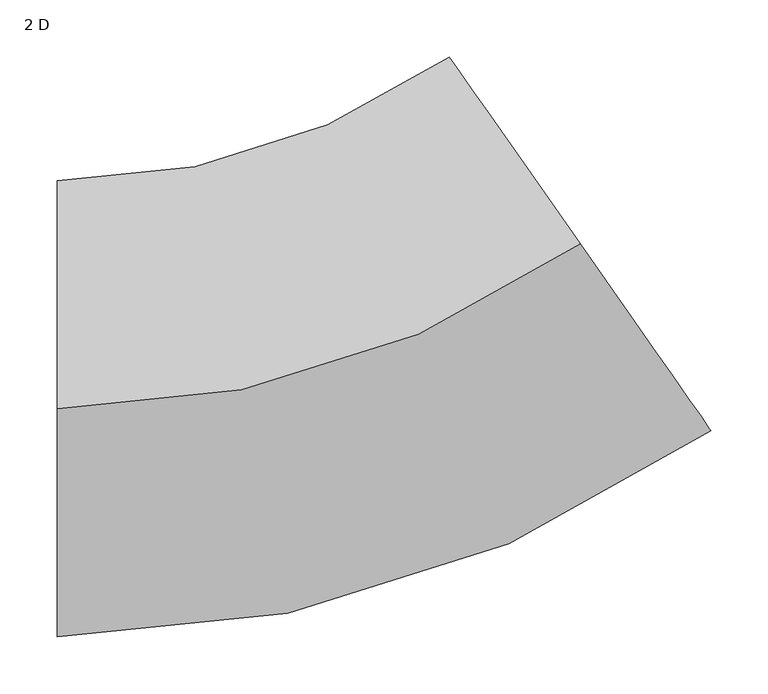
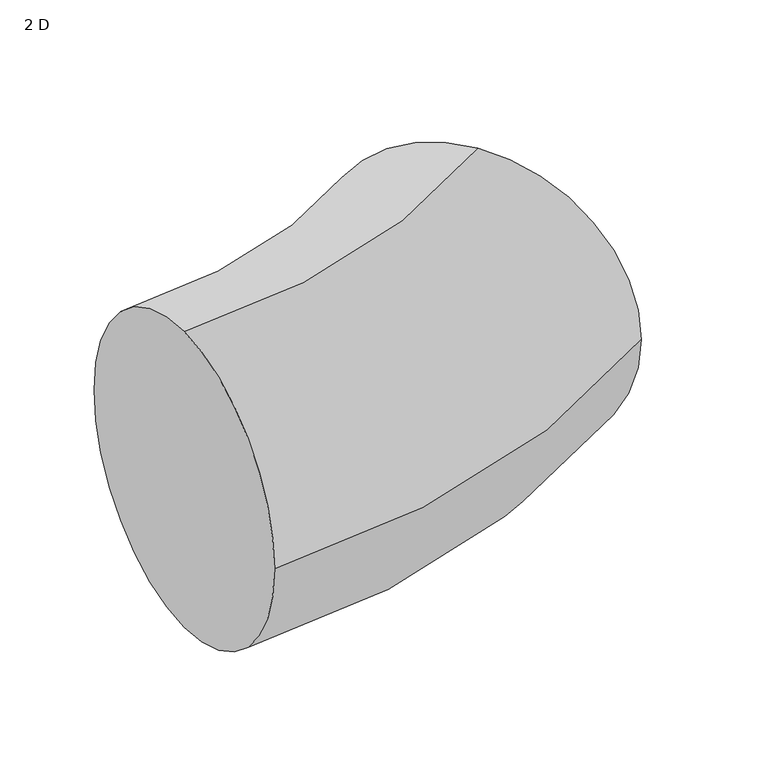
"""IFC4 building model written with IfcOpenShell, lengths in millimetres: duct fitting geometry, M_Cotovelo redondo : 2 D."""

import ifcopenshell
import ifcopenshell.guid

model = None  # the IFC model being written
_history = None  # IfcOwnerHistory: only IFC2X3 demands one
_inside = {}  # id of a spatial element -> (the spatial element, [elements in it])
_under = {}  # id of a project, library or spatial element -> (it, [spatial elements below it])
_declared = {}  # id of a project -> (the project, [libraries it declares])
_typed = {}  # id of a type object -> (the type object, [elements of that type])
_made_of = {}  # id of a material, layer set ... -> (it, [elements and type objects made of it])


def new_model(schema):
    """Start an empty IFC model of exactly this schema.

    Asked for "IFC4X3", IfcOpenShell would pick the latest addendum, in which some entities
    have other attributes; the version numbers below select the first issue.
    IFC2X3 requires an IfcOwnerHistory on every rooted entity: one is made here for all.
    """
    global model, _history
    if schema == "IFC4X3":
        model = ifcopenshell.file(schema_version=(4, 3, 0, 0))
    else:
        model = ifcopenshell.file(schema=schema)
    _inside.clear()
    _under.clear()
    _declared.clear()
    _typed.clear()
    _made_of.clear()
    _history = None
    if model.schema == "IFC2X3":
        org = make("IfcOrganization", Name="unknown")
        user = make(
            "IfcPersonAndOrganization",
            ThePerson=make("IfcPerson", FamilyName="unknown"),
            TheOrganization=org,
        )
        app = make(
            "IfcApplication",
            ApplicationDeveloper=org,
            Version="unknown",
            ApplicationFullName="unknown",
            ApplicationIdentifier="unknown",
        )
        _history = make(
            "IfcOwnerHistory",
            OwningUser=user,
            OwningApplication=app,
            ChangeAction="ADDED",
            CreationDate=0,
        )
    return model


def make(cls, **values):
    """One entity of the class cls with the attributes given. An attribute that is None is left unset."""
    return model.create_entity(
        cls, **{name: value for name, value in values.items() if value is not None}
    )


def rooted(cls, **values):
    """An entity with a GlobalId (a new one), such as an element, a storey or a relation."""
    return make(cls, GlobalId=ifcopenshell.guid.new(), OwnerHistory=_history, **values)


def si_unit(unit_type, name, prefix=None):
    """IfcSIUnit, for example si_unit("LENGTHUNIT", "METRE", prefix="MILLI")."""
    return make("IfcSIUnit", UnitType=unit_type, Prefix=prefix, Name=name)


def assignment(units):
    """IfcUnitAssignment: the units of a project."""
    return None if units is None else make("IfcUnitAssignment", Units=units)


def point(xyz):
    """IfcCartesianPoint."""
    return None if xyz is None else make("IfcCartesianPoint", Coordinates=xyz)


def direction(xyz):
    """IfcDirection."""
    return None if xyz is None else make("IfcDirection", DirectionRatios=xyz)


def frame(location, z_axis=None, x_axis=None):
    """IfcAxis2Placement3D, a coordinate frame: its origin and axes. An axis left out is left unset."""
    return make(
        "IfcAxis2Placement3D",
        Location=point(location),
        Axis=direction(z_axis),
        RefDirection=direction(x_axis),
    )


def origin():
    """The frame at (0, 0, 0) with its axes left unset."""
    return frame((0.0, 0.0, 0.0))


def place(relative_to, where):
    """IfcLocalPlacement: puts the frame where relative to a parent placement (None: the world)."""
    return make(
        "IfcLocalPlacement", PlacementRelTo=relative_to, RelativePlacement=where
    )


def context(
    kind, dimensions, precision=None, world=None, true_north=None, identifier=None
):
    """IfcGeometricRepresentationContext, for example the 3D "Model" context."""
    return make(
        "IfcGeometricRepresentationContext",
        ContextIdentifier=identifier,
        ContextType=kind,
        CoordinateSpaceDimension=dimensions,
        Precision=precision,
        WorldCoordinateSystem=world,
        TrueNorth=true_north,
    )


def project(units=None, contexts=None):
    """IfcProject with its units and contexts."""
    return rooted(
        "IfcProject",
        Name="project",
        RepresentationContexts=contexts,
        UnitsInContext=assignment(units),
    )


def spatial(cls, under=None, at=None, **own):
    """A site, building, storey or space (cls), placed at a placement, below another one or the project."""
    s = rooted(cls, ObjectPlacement=at, **own)
    if under is not None:
        _under.setdefault(under.id(), (under, []))[1].append(s)
    return s


def circle_curve(where, radius):
    """IfcCircle in the frame where."""
    return make("IfcCircle", Position=where, Radius=radius)


def ellipse_curve(where, semi_axis1, semi_axis2):
    """IfcEllipse in the frame where."""
    return make(
        "IfcEllipse", Position=where, SemiAxis1=semi_axis1, SemiAxis2=semi_axis2
    )


def trimmed(basis, trim1, trim2, sense, master):
    """IfcTrimmedCurve: the piece of a basis curve between two trims."""
    return make(
        "IfcTrimmedCurve",
        BasisCurve=basis,
        Trim1=trim1,
        Trim2=trim2,
        SenseAgreement=sense,
        MasterRepresentation=master,
    )


def shape(context_of_items, identifier, shape_type, items):
    """IfcShapeRepresentation: the items that make up one representation, for example the "Body"."""
    return make(
        "IfcShapeRepresentation",
        ContextOfItems=context_of_items,
        RepresentationIdentifier=identifier,
        RepresentationType=shape_type,
        Items=items,
    )


def source(mapping_origin, context_of_items, identifier, shape_type, items):
    """IfcRepresentationMap: a shape defined once, which mapped items show again and again."""
    return make(
        "IfcRepresentationMap",
        MappingOrigin=mapping_origin,
        MappedRepresentation=shape(context_of_items, identifier, shape_type, items),
    )


def transform(
    local_origin,
    x_axis=None,
    y_axis=None,
    z_axis=None,
    scale=None,
    scale2=None,
    scale3=None,
    uniform=True,
):
    """IfcCartesianTransformationOperator3D, or its non-uniform kind. x_axis, y_axis, z_axis: its Axis1, 2, 3."""
    if uniform:
        return make(
            "IfcCartesianTransformationOperator3D",
            Axis1=direction(x_axis),
            Axis2=direction(y_axis),
            LocalOrigin=point(local_origin),
            Scale=scale,
            Axis3=direction(z_axis),
        )
    return make(
        "IfcCartesianTransformationOperator3DnonUniform",
        Axis1=direction(x_axis),
        Axis2=direction(y_axis),
        LocalOrigin=point(local_origin),
        Scale=scale,
        Axis3=direction(z_axis),
        Scale2=scale2,
        Scale3=scale3,
    )


def mapped(mapping_source, mapping_target):
    """IfcMappedItem: shows the shape of a source again, moved by a transform."""
    return make(
        "IfcMappedItem", MappingSource=mapping_source, MappingTarget=mapping_target
    )


def made_of(thing, what):
    """Note that an element or type object is made of a material, layer set ...; save() writes the relation."""
    if what is not None:
        _made_of.setdefault(what.id(), (what, []))[1].append(thing)
    return thing


def element(
    cls,
    number,
    at=None,
    inside=None,
    cuts=None,
    type_object=None,
    material=None,
    context=None,
    identifier="Body",
    shape_type=None,
    held_by="IfcProductDefinitionShape",
    body=None,
    shapes=None,
    **own,
):
    """One element of the class cls, such as IfcWall. Its Tag is "e" and its number.

    at: its placement. inside: the storey or other place that contains it. cuts: it is an
    opening in that element (IfcRelVoidsElement). A single representation is given by context,
    identifier, shape_type and body (its items); several are given by shapes. held_by: the class
    of the entity that holds the representations. save() writes the other relations.
    """
    e = rooted(cls, Tag="e%d" % number, ObjectPlacement=at, **own)
    if body is not None:
        shapes = [shape(context, identifier, shape_type, body)]
    if shapes is not None:
        e.Representation = make(held_by, Representations=shapes)
    if inside is not None:
        _inside.setdefault(inside.id(), (inside, []))[1].append(e)
    if cuts is not None:
        rooted(
            "IfcRelVoidsElement", RelatingBuildingElement=cuts, RelatedOpeningElement=e
        )
    if type_object is not None:
        _typed.setdefault(type_object.id(), (type_object, []))[1].append(e)
    return made_of(e, material)


def aggregate(whole, parts):
    """IfcRelAggregates: a whole, such as a stair, and the parts it consists of."""
    return rooted("IfcRelAggregates", RelatingObject=whole, RelatedObjects=parts)


def save(model, path):
    """Write the relations noted so far, then the file.

    IfcRelAggregates (storeys below a building ...), IfcRelContainedInSpatialStructure (elements
    in a storey), IfcRelDefinesByType, IfcRelAssociatesMaterial and IfcRelDeclares: one each for
    every whole, place, type object, material and project.
    """
    for whole, parts in _under.values():
        aggregate(whole, parts)
    for where, things in _inside.values():
        rooted(
            "IfcRelContainedInSpatialStructure",
            RelatedElements=things,
            RelatingStructure=where,
        )
    for kind, things in _typed.values():
        rooted("IfcRelDefinesByType", RelatedObjects=things, RelatingType=kind)
    for what, things in _made_of.values():
        rooted("IfcRelAssociatesMaterial", RelatedObjects=things, RelatingMaterial=what)
    for by, libraries in _declared.values():
        rooted("IfcRelDeclares", RelatingContext=by, RelatedDefinitions=libraries)
    model.write(path)


def plane_surface(at):
    """IfcPlane: the flat surface through the origin of the frame at, square to its z axis."""
    return make("IfcPlane", Position=at)


def revolved_surface(curve, axis_point, axis_direction):
    """IfcSurfaceOfRevolution: the curve turned about the line through axis_point along axis_direction."""
    return make(
        "IfcSurfaceOfRevolution",
        SweptCurve=make("IfcArbitraryOpenProfileDef", ProfileType="CURVE", Curve=curve),
        AxisPosition=make("IfcAxis1Placement", Location=point(axis_point), Axis=direction(axis_direction)),
    )


def advanced_brep(points, edges, surfaces, faces):
    """IfcAdvancedBrep: a solid bounded by faces that lie on surfaces and meet in shared edges.

    An edge is (start, end): straight between two places in points (the first is 0);
    or (start, end, curve); or (start, end, curve, False) where it runs against its curve.
    A face is (place in surfaces, loops), or (place, loops, False) where it looks against
    its surface's normal. A loop lists edges by number (the first is 1), with a minus sign
    where the edge is run from its end to its start. The first loop is the outer one.
    """
    corners = [point(p) for p in points]
    vertices = [make("IfcVertexPoint", VertexGeometry=c) for c in corners]
    made = []
    for start, end, *more in edges:
        made.append(
            make(
                "IfcEdgeCurve",
                EdgeStart=vertices[start],
                EdgeEnd=vertices[end],
                EdgeGeometry=more[0] if more else make("IfcPolyline", Points=[corners[start], corners[end]]),
                SameSense=more[1] if len(more) > 1 else True,
            )
        )
    hull = []
    for where, loops, *sense in faces:
        bounds = []
        for j, loop in enumerate(loops):
            ring = [make("IfcOrientedEdge", EdgeElement=made[abs(k) - 1], Orientation=k > 0) for k in loop]
            bounds.append(
                make(
                    "IfcFaceOuterBound" if j == 0 else "IfcFaceBound",
                    Bound=make("IfcEdgeLoop", EdgeList=ring),
                    Orientation=True,
                )
            )
        hull.append(make("IfcAdvancedFace", Bounds=bounds, FaceSurface=surfaces[where], SameSense=sense[0] if sense else True))
    return make("IfcAdvancedBrep", Outer=make("IfcClosedShell", CfsFaces=hull))


def duct_fitting_2_d_f5f09e9f(model_context):
    return source(origin(), model_context, "Body", "AdvancedBrep", [
        advanced_brep(
        [(-252.2390311, 0.0, 200.0), (-252.2390311, 200.0, 0.0), (-252.2390311, 0.0, -200.0), (-252.2390311, -200.0, 0.0), (206.622118, 144.6783646, 200.0), (321.3374052, -19.1520443, 0.0), (206.622118, 144.6783646, -200.0), (91.9068307, 308.5087734, 0.0)],
        [
            (0, 1, circle_curve(frame((-252.2390311, 0.0, 0.0), z_axis=(-1.0, 0.0, 0.0), x_axis=(0.0, 1.0, 0.0)), 200.0)),
            (1, 2, circle_curve(frame((-252.2390311, 0.0, 0.0), z_axis=(-1.0, 0.0, 0.0), x_axis=(0.0, 1.0, 0.0)), 200.0)),
            (2, 3, circle_curve(frame((-252.2390311, 0.0, 0.0), z_axis=(-1.0, 0.0, 0.0), x_axis=(0.0, 1.0, 0.0)), 200.0)),
            (3, 0, circle_curve(frame((-252.2390311, 0.0, 0.0), z_axis=(-1.0, 0.0, 0.0), x_axis=(0.0, 1.0, 0.0)), 200.0)),
            (4, 5, circle_curve(frame((206.622118, 144.6783646, 0.0), z_axis=(0.8191520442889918, 0.573576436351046, 0.0), x_axis=(-0.573576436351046, 0.8191520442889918, 0.0)), 200.0)),
            (5, 6, circle_curve(frame((206.622118, 144.6783646, 0.0), z_axis=(0.8191520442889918, 0.573576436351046, 0.0), x_axis=(-0.573576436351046, 0.8191520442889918, 0.0)), 200.0)),
            (6, 7, circle_curve(frame((206.622118, 144.6783646, 0.0), z_axis=(0.8191520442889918, 0.573576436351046, 0.0), x_axis=(-0.573576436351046, 0.8191520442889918, 0.0)), 200.0)),
            (7, 4, circle_curve(frame((206.622118, 144.6783646, 0.0), z_axis=(0.8191520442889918, 0.573576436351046, 0.0), x_axis=(-0.573576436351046, 0.8191520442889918, 0.0)), 200.0)),
            (7, 1, circle_curve(frame((-252.2390311, 800.0, 0.0), z_axis=(0.0, 0.0, -1.0), x_axis=(0.0, -1.0, 0.0)), 600.0)),
            (0, 4, circle_curve(frame((-252.2390311, 800.0, 200.0), z_axis=(0.0, 0.0, 1.0), x_axis=(0.0, -1.0, 0.0)), 800.0)),
            (6, 2, circle_curve(frame((-252.2390311, 800.0, -200.0), z_axis=(0.0, 0.0, -1.0), x_axis=(0.0, -1.0, 0.0)), 800.0)),
            (5, 3, circle_curve(frame((-252.2390311, 800.0, 0.0), z_axis=(0.0, 0.0, -1.0), x_axis=(0.0, -1.0, 0.0)), 1000.0)),
        ],
        [
            plane_surface(frame((-252.2390311, 0.0, 0.0), z_axis=(-1.0, 0.0, 0.0), x_axis=(0.0, 0.0, 1.0))),
            plane_surface(frame((206.622118, 144.6783646, 0.0), z_axis=(0.8191520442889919, 0.5735764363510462, 0.0), x_axis=(0.0, 0.0, 1.0))),
            revolved_surface(trimmed(ellipse_curve(frame((-252.2390311, 0.0, 0.0), z_axis=(-1.0, 0.0, 0.0), x_axis=(0.0, 1.0, 0.0)), 200.0, 200.0), [point((-252.2390311, 0.0, 200.0))], [point((-252.2390311, 200.0, 0.0))], True, "CARTESIAN"), (-252.2390311, 800.0, 0.0), (0.0, 0.0, 1.0)),
            revolved_surface(trimmed(ellipse_curve(frame((-252.2390311, 0.0, 0.0), z_axis=(-1.0, 0.0, 0.0), x_axis=(0.0, 1.0, 0.0)), 200.0, 200.0), [point((-252.2390311, 200.0, 0.0))], [point((-252.2390311, 0.0, -200.0))], True, "CARTESIAN"), (-252.2390311, 800.0, 0.0), (0.0, 0.0, 1.0)),
            revolved_surface(trimmed(ellipse_curve(frame((-252.2390311, 0.0, 0.0), z_axis=(-1.0, 0.0, 0.0), x_axis=(0.0, 1.0, 0.0)), 200.0, 200.0), [point((-252.2390311, 0.0, -200.0))], [point((-252.2390311, -200.0, 0.0))], True, "CARTESIAN"), (-252.2390311, 800.0, 0.0), (0.0, 0.0, 1.0)),
            revolved_surface(trimmed(ellipse_curve(frame((-252.2390311, 0.0, 0.0), z_axis=(-1.0, 0.0, 0.0), x_axis=(0.0, 1.0, 0.0)), 200.0, 200.0), [point((-252.2390311, -200.0, 0.0))], [point((-252.2390311, 0.0, 200.0))], True, "CARTESIAN"), (-252.2390311, 800.0, 0.0), (0.0, 0.0, 1.0)),
        ],
        [
            (0, [[1, 2, 3, 4]]),
            (1, [[5, 6, 7, 8]]),
            (2, [[9, -1, 10, -8]]),
            (3, [[11, -2, -9, -7]]),
            (4, [[12, -3, -11, -6]]),
            (5, [[-10, -4, -12, -5]]),
        ],
    ),
    ])


if __name__ == "__main__":
    model = new_model("IFC4")
    model_context = context("Model", 3, world=origin())
    ifc_project = project(units=[si_unit("LENGTHUNIT", "METRE", prefix="MILLI")], contexts=[model_context])
    site = spatial("IfcSite", under=ifc_project)
    building = spatial("IfcBuilding", under=site)
    placement = place(None, origin())
    duct_fitting_2_d_shape = duct_fitting_2_d_f5f09e9f(model_context)
    element("IfcDuctFitting", 1, ObjectType="M_Cotovelo redondo : 2 D", at=placement, inside=building, context=model_context, shape_type="MappedRepresentation", body=[
        mapped(duct_fitting_2_d_shape, transform((0.0, 0.0, 0.0), x_axis=(1.0, 0.0, 0.0), y_axis=(0.0, 1.0, 0.0), z_axis=(0.0, 0.0, 1.0))),
    ])
    save(model, "model.ifc")
